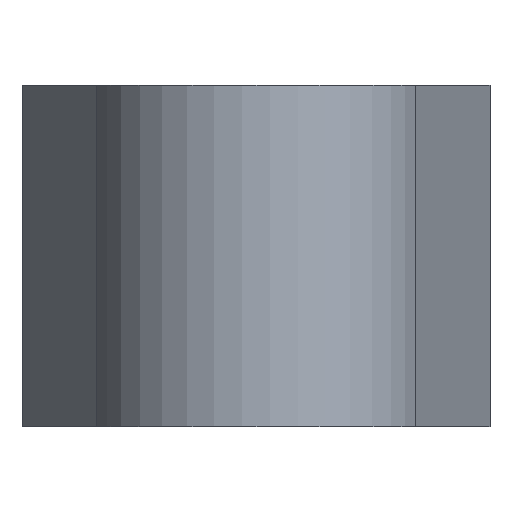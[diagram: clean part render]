
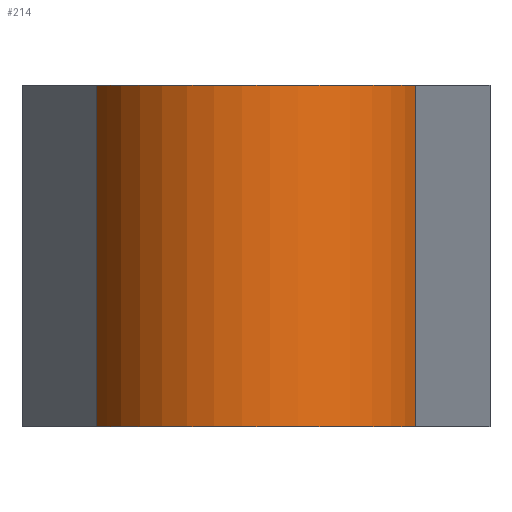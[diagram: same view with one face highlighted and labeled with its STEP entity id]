
A CAD part, left-side view. The second image highlights one B-rep face of the part: STEP entity #214.
In plain terms, the highlighted cylindrical face has radius 17 mm (diameter 34 mm), a partial arc.
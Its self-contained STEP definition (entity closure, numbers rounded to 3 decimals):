
#127=CYLINDRICAL_SURFACE('',#826,17.);
#156=CIRCLE('',#824,17.);
#157=CIRCLE('',#825,17.);
#214=ADVANCED_FACE('',(#271),#127,.T.);
#271=FACE_OUTER_BOUND('',#305,.T.);
#305=EDGE_LOOP('',(#383,#384,#385,#386));
#383=ORIENTED_EDGE('',*,*,#644,.T.);
#384=ORIENTED_EDGE('',*,*,#645,.F.);
#385=ORIENTED_EDGE('',*,*,#641,.F.);
#386=ORIENTED_EDGE('',*,*,#646,.T.);
#571=VERTEX_POINT('',#1192);
#572=VERTEX_POINT('',#1193);
#573=VERTEX_POINT('',#1198);
#574=VERTEX_POINT('',#1199);
#641=EDGE_CURVE('',#571,#572,#737,.T.);
#644=EDGE_CURVE('',#573,#574,#740,.T.);
#645=EDGE_CURVE('',#572,#574,#156,.T.);
#646=EDGE_CURVE('',#571,#573,#157,.T.);
#737=LINE('',#1191,#781);
#740=LINE('',#1197,#784);
#781=VECTOR('',#945,1.);
#784=VECTOR('',#950,1.);
#824=AXIS2_PLACEMENT_3D('',#1200,#951,#952);
#825=AXIS2_PLACEMENT_3D('',#1201,#953,#954);
#826=AXIS2_PLACEMENT_3D('',#1202,#955,#956);
#945=DIRECTION('',(0.,0.,1.));
#950=DIRECTION('',(0.,0.,1.));
#951=DIRECTION('',(0.,0.,1.));
#952=DIRECTION('',(1.,0.,0.));
#953=DIRECTION('',(0.,0.,1.));
#954=DIRECTION('',(1.,0.,0.));
#955=DIRECTION('',(0.,0.,1.));
#956=DIRECTION('',(-1.,0.,0.));
#1191=CARTESIAN_POINT('',(-4.69,16.34,0.));
#1192=CARTESIAN_POINT('',(-4.69,16.34,0.));
#1193=CARTESIAN_POINT('',(-4.69,16.34,35.));
#1197=CARTESIAN_POINT('',(-4.69,-16.34,0.));
#1198=CARTESIAN_POINT('',(-4.69,-16.34,0.));
#1199=CARTESIAN_POINT('',(-4.69,-16.34,35.));
#1200=CARTESIAN_POINT('',(0.,0.,35.));
#1201=CARTESIAN_POINT('',(0.,0.,0.));
#1202=CARTESIAN_POINT('',(0.,0.,0.));
